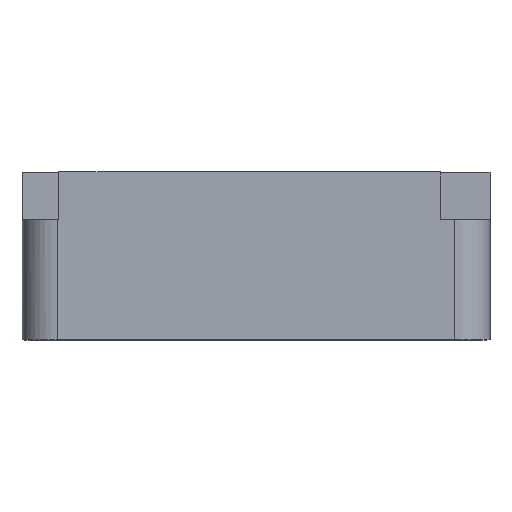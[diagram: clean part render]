
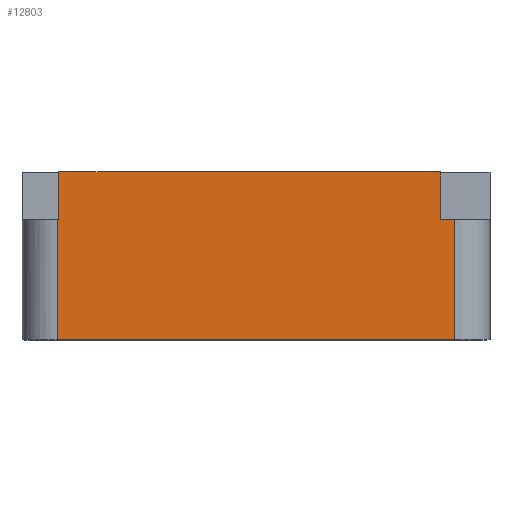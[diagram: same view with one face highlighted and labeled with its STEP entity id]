
A CAD part, top view. The second image highlights one B-rep face of the part: STEP entity #12803.
In plain terms, the highlighted planar face has unit normal (0, 0, 1).
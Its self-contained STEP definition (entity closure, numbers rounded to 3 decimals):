
#1558=DIRECTION('',(1.,0.,0.));
#1559=VECTOR('',#1558,36.99);
#1560=CARTESIAN_POINT('',(-42.26,8.232,3.735));
#1561=LINE('',#1560,#1559);
#2320=DIRECTION('',(-1.,0.,0.));
#2321=VECTOR('',#2320,38.5);
#2322=CARTESIAN_POINT('',(-3.91,-8.048,3.735));
#2323=LINE('',#2322,#2321);
#3395=DIRECTION('',(0.,1.,0.));
#3396=VECTOR('',#3395,4.62);
#3397=CARTESIAN_POINT('',(-42.26,3.612,3.735));
#3398=LINE('',#3397,#3396);
#3428=DIRECTION('',(1.,0.,0.));
#3429=VECTOR('',#3428,0.15);
#3430=CARTESIAN_POINT('',(-42.41,3.612,3.735));
#3431=LINE('',#3430,#3429);
#3446=DIRECTION('',(0.,1.,0.));
#3447=VECTOR('',#3446,4.62);
#3448=CARTESIAN_POINT('',(-5.27,3.612,3.735));
#3449=LINE('',#3448,#3447);
#3450=DIRECTION('',(-1.,0.,0.));
#3451=VECTOR('',#3450,1.36);
#3452=CARTESIAN_POINT('',(-3.91,3.612,3.735));
#3453=LINE('',#3452,#3451);
#3561=DIRECTION('',(0.,-1.,0.));
#3562=VECTOR('',#3561,11.66);
#3563=CARTESIAN_POINT('',(-3.91,3.612,3.735));
#3564=LINE('',#3563,#3562);
#3668=DIRECTION('',(0.,1.,0.));
#3669=VECTOR('',#3668,11.66);
#3670=CARTESIAN_POINT('',(-42.41,-8.048,3.735));
#3671=LINE('',#3670,#3669);
#6728=CARTESIAN_POINT('',(-3.91,-8.048,3.735));
#6729=VERTEX_POINT('',#6728);
#6730=CARTESIAN_POINT('',(-42.41,-8.048,3.735));
#6731=VERTEX_POINT('',#6730);
#6797=CARTESIAN_POINT('',(-42.41,3.612,3.735));
#6799=VERTEX_POINT('',#6797);
#6806=CARTESIAN_POINT('',(-5.27,3.612,3.735));
#6807=VERTEX_POINT('',#6806);
#6808=CARTESIAN_POINT('',(-3.91,3.612,3.735));
#6809=VERTEX_POINT('',#6808);
#6830=CARTESIAN_POINT('',(-42.26,3.612,3.735));
#6831=VERTEX_POINT('',#6830);
#6832=CARTESIAN_POINT('',(-42.26,8.232,3.735));
#6833=VERTEX_POINT('',#6832);
#6836=CARTESIAN_POINT('',(-5.27,8.232,3.735));
#6837=VERTEX_POINT('',#6836);
#12784=CARTESIAN_POINT('',(-24.,0.092,3.735));
#12785=DIRECTION('',(0.,0.,1.));
#12786=DIRECTION('',(1.,0.,0.));
#12787=AXIS2_PLACEMENT_3D('',#12784,#12785,#12786);
#12788=PLANE('',#12787);
#12789=ORIENTED_EDGE('',*,*,#9961,.T.);
#12791=ORIENTED_EDGE('',*,*,#12790,.F.);
#12793=ORIENTED_EDGE('',*,*,#12792,.F.);
#12795=ORIENTED_EDGE('',*,*,#12794,.T.);
#12796=ORIENTED_EDGE('',*,*,#11070,.T.);
#12798=ORIENTED_EDGE('',*,*,#12797,.T.);
#12799=ORIENTED_EDGE('',*,*,#12774,.T.);
#12800=ORIENTED_EDGE('',*,*,#12724,.T.);
#12801=EDGE_LOOP('',(#12789,#12791,#12793,#12795,#12796,#12798,#12799,#12800));
#12802=FACE_OUTER_BOUND('',#12801,.F.);
#12803=ADVANCED_FACE('',(#12802),#12788,.T.);
#9961=EDGE_CURVE('',#6833,#6837,#1561,.T.);
#11070=EDGE_CURVE('',#6729,#6731,#2323,.T.);
#12724=EDGE_CURVE('',#6831,#6833,#3398,.T.);
#12774=EDGE_CURVE('',#6799,#6831,#3431,.T.);
#12790=EDGE_CURVE('',#6807,#6837,#3449,.T.);
#12792=EDGE_CURVE('',#6809,#6807,#3453,.T.);
#12794=EDGE_CURVE('',#6809,#6729,#3564,.T.);
#12797=EDGE_CURVE('',#6731,#6799,#3671,.T.);
